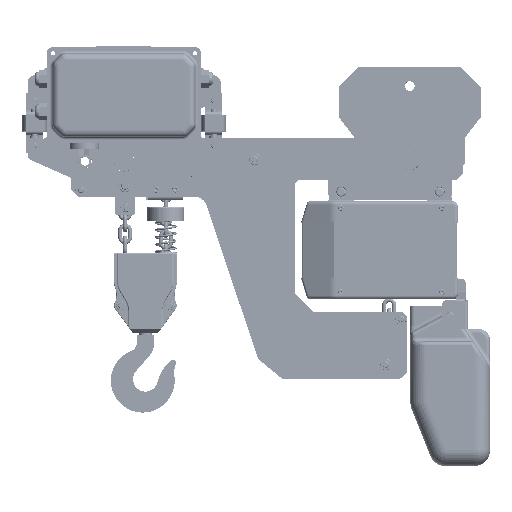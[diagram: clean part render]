
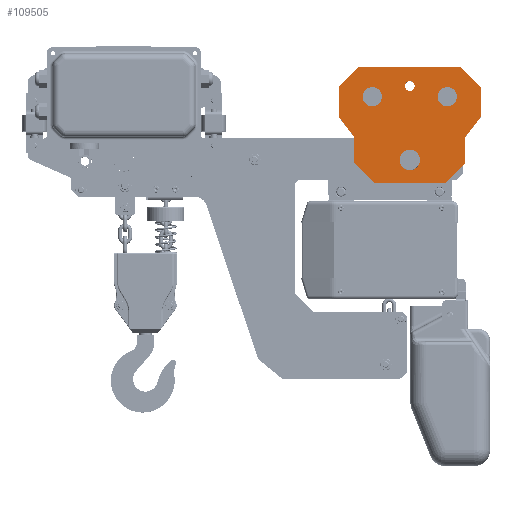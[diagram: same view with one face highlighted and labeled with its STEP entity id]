
A CAD part, top view. The second image highlights one B-rep face of the part: STEP entity #109505.
In plain terms, the highlighted planar face has unit normal (0, 0, 1).
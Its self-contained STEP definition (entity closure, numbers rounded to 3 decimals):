
#2171=LINE('',#172717,#9423);
#2175=LINE('',#172726,#9427);
#2179=LINE('',#172735,#9431);
#2190=LINE('',#172779,#9442);
#2191=LINE('',#172784,#9443);
#2192=LINE('',#172788,#9444);
#2193=LINE('',#172795,#9445);
#2194=LINE('',#172799,#9446);
#2195=LINE('',#172803,#9447);
#2196=LINE('',#172805,#9448);
#2197=LINE('',#172807,#9449);
#2198=LINE('',#172809,#9450);
#9423=VECTOR('',#143892,1000.);
#9427=VECTOR('',#143898,1000.);
#9431=VECTOR('',#143904,1000.);
#9442=VECTOR('',#143943,1000.);
#9443=VECTOR('',#143946,1000.);
#9444=VECTOR('',#143949,1000.);
#9445=VECTOR('',#143958,1000.);
#9446=VECTOR('',#143961,1000.);
#9447=VECTOR('',#143964,1000.);
#9448=VECTOR('',#143965,1000.);
#9449=VECTOR('',#143966,1000.);
#9450=VECTOR('',#143967,1000.);
#22042=PLANE('',#132769);
#25234=ORIENTED_EDGE('',*,*,#58125,.T.);
#25235=ORIENTED_EDGE('',*,*,#58126,.T.);
#25236=ORIENTED_EDGE('',*,*,#58127,.F.);
#25237=ORIENTED_EDGE('',*,*,#58128,.T.);
#25238=ORIENTED_EDGE('',*,*,#58129,.T.);
#25239=ORIENTED_EDGE('',*,*,#58130,.T.);
#25240=ORIENTED_EDGE('',*,*,#58131,.F.);
#25241=ORIENTED_EDGE('',*,*,#58132,.T.);
#25242=ORIENTED_EDGE('',*,*,#58096,.F.);
#25243=ORIENTED_EDGE('',*,*,#58133,.T.);
#25244=ORIENTED_EDGE('',*,*,#58100,.F.);
#25245=ORIENTED_EDGE('',*,*,#58134,.T.);
#25246=ORIENTED_EDGE('',*,*,#58104,.F.);
#25247=ORIENTED_EDGE('',*,*,#58135,.T.);
#25248=ORIENTED_EDGE('',*,*,#58136,.F.);
#25249=ORIENTED_EDGE('',*,*,#58137,.T.);
#25250=ORIENTED_EDGE('',*,*,#58138,.T.);
#25251=ORIENTED_EDGE('',*,*,#58139,.T.);
#25252=ORIENTED_EDGE('',*,*,#58140,.F.);
#25253=ORIENTED_EDGE('',*,*,#58141,.T.);
#25254=ORIENTED_EDGE('',*,*,#58142,.F.);
#25255=ORIENTED_EDGE('',*,*,#58143,.T.);
#25256=ORIENTED_EDGE('',*,*,#58144,.F.);
#25257=ORIENTED_EDGE('',*,*,#58053,.F.);
#58053=EDGE_CURVE('',#74591,#74591,#85309,.T.);
#58096=EDGE_CURVE('',#74634,#74635,#2171,.T.);
#58100=EDGE_CURVE('',#74638,#74639,#2175,.T.);
#58104=EDGE_CURVE('',#74642,#74643,#2179,.T.);
#58125=EDGE_CURVE('',#74660,#74660,#85359,.T.);
#58126=EDGE_CURVE('',#74661,#74661,#85360,.T.);
#58127=EDGE_CURVE('',#74662,#74663,#2190,.F.);
#58128=EDGE_CURVE('',#74662,#74664,#85361,.T.);
#58129=EDGE_CURVE('',#74664,#74665,#2191,.T.);
#58130=EDGE_CURVE('',#74665,#74666,#85362,.F.);
#58131=EDGE_CURVE('',#74667,#74666,#2192,.T.);
#58132=EDGE_CURVE('',#74667,#74635,#85363,.T.);
#58133=EDGE_CURVE('',#74634,#74639,#85364,.T.);
#58134=EDGE_CURVE('',#74638,#74643,#85365,.T.);
#58135=EDGE_CURVE('',#74642,#74668,#85366,.T.);
#58136=EDGE_CURVE('',#74669,#74668,#2193,.T.);
#58137=EDGE_CURVE('',#74669,#74670,#85367,.F.);
#58138=EDGE_CURVE('',#74670,#74671,#2194,.T.);
#58139=EDGE_CURVE('',#74671,#74672,#85368,.T.);
#58140=EDGE_CURVE('',#74673,#74672,#2195,.F.);
#58141=EDGE_CURVE('',#74673,#74674,#2196,.T.);
#58142=EDGE_CURVE('',#74675,#74674,#2197,.T.);
#58143=EDGE_CURVE('',#74675,#74663,#2198,.T.);
#58144=EDGE_CURVE('',#74676,#74676,#85369,.T.);
#74591=VERTEX_POINT('',#172573);
#74634=VERTEX_POINT('',#172716);
#74635=VERTEX_POINT('',#172718);
#74638=VERTEX_POINT('',#172725);
#74639=VERTEX_POINT('',#172727);
#74642=VERTEX_POINT('',#172734);
#74643=VERTEX_POINT('',#172736);
#74660=VERTEX_POINT('',#172776);
#74661=VERTEX_POINT('',#172778);
#74662=VERTEX_POINT('',#172780);
#74663=VERTEX_POINT('',#172781);
#74664=VERTEX_POINT('',#172783);
#74665=VERTEX_POINT('',#172785);
#74666=VERTEX_POINT('',#172787);
#74667=VERTEX_POINT('',#172789);
#74668=VERTEX_POINT('',#172794);
#74669=VERTEX_POINT('',#172796);
#74670=VERTEX_POINT('',#172798);
#74671=VERTEX_POINT('',#172800);
#74672=VERTEX_POINT('',#172802);
#74673=VERTEX_POINT('',#172804);
#74674=VERTEX_POINT('',#172806);
#74675=VERTEX_POINT('',#172808);
#74676=VERTEX_POINT('',#172811);
#85309=CIRCLE('',#132676,15.75);
#85359=CIRCLE('',#132770,14.75);
#85360=CIRCLE('',#132771,14.75);
#85361=CIRCLE('',#132772,1.);
#85362=CIRCLE('',#132773,1.);
#85363=CIRCLE('',#132774,1.);
#85364=CIRCLE('',#132775,1.);
#85365=CIRCLE('',#132776,1.);
#85366=CIRCLE('',#132777,1.);
#85367=CIRCLE('',#132778,1.);
#85368=CIRCLE('',#132779,1.);
#85369=CIRCLE('',#132780,7.5);
#90108=EDGE_LOOP('',(#25234));
#90109=EDGE_LOOP('',(#25235));
#90110=EDGE_LOOP('',(#25236,#25237,#25238,#25239,#25240,#25241,#25242,#25243,
#25244,#25245,#25246,#25247,#25248,#25249,#25250,#25251,#25252,#25253,#25254,
#25255));
#90111=EDGE_LOOP('',(#25256));
#90112=EDGE_LOOP('',(#25257));
#98895=FACE_BOUND('',#90108,.T.);
#98896=FACE_BOUND('',#90109,.T.);
#98897=FACE_BOUND('',#90110,.T.);
#98898=FACE_BOUND('',#90111,.T.);
#98899=FACE_BOUND('',#90112,.T.);
#109505=ADVANCED_FACE('',(#98895,#98896,#98897,#98898,#98899),#22042,.F.);
#132676=AXIS2_PLACEMENT_3D('',#172572,#143730,#143731);
#132769=AXIS2_PLACEMENT_3D('',#172774,#143937,#143938);
#132770=AXIS2_PLACEMENT_3D('',#172775,#143939,#143940);
#132771=AXIS2_PLACEMENT_3D('',#172777,#143941,#143942);
#132772=AXIS2_PLACEMENT_3D('',#172782,#143944,#143945);
#132773=AXIS2_PLACEMENT_3D('',#172786,#143947,#143948);
#132774=AXIS2_PLACEMENT_3D('',#172790,#143950,#143951);
#132775=AXIS2_PLACEMENT_3D('',#172791,#143952,#143953);
#132776=AXIS2_PLACEMENT_3D('',#172792,#143954,#143955);
#132777=AXIS2_PLACEMENT_3D('',#172793,#143956,#143957);
#132778=AXIS2_PLACEMENT_3D('',#172797,#143959,#143960);
#132779=AXIS2_PLACEMENT_3D('',#172801,#143962,#143963);
#132780=AXIS2_PLACEMENT_3D('',#172810,#143968,#143969);
#143730=DIRECTION('',(0.,0.,1.));
#143731=DIRECTION('',(0.,1.,0.));
#143892=DIRECTION('',(-0.707,0.707,0.));
#143898=DIRECTION('',(-1.,0.,0.));
#143904=DIRECTION('',(-0.707,-0.707,0.));
#143937=DIRECTION('',(0.,0.,-1.));
#143938=DIRECTION('',(-1.,0.,0.));
#143939=DIRECTION('',(0.,0.,-1.));
#143940=DIRECTION('',(0.,-1.,0.));
#143941=DIRECTION('',(0.,0.,-1.));
#143942=DIRECTION('',(0.,-1.,0.));
#143943=DIRECTION('',(0.,-1.,0.));
#143944=DIRECTION('',(0.,0.,1.));
#143945=DIRECTION('',(1.,0.,0.));
#143946=DIRECTION('',(0.611,-0.791,0.));
#143947=DIRECTION('',(0.,0.,1.));
#143948=DIRECTION('',(1.,0.,0.));
#143949=DIRECTION('',(0.,1.,0.));
#143950=DIRECTION('',(0.,0.,1.));
#143951=DIRECTION('',(1.,0.,0.));
#143952=DIRECTION('',(0.,0.,1.));
#143953=DIRECTION('',(1.,0.,0.));
#143954=DIRECTION('',(0.,0.,1.));
#143955=DIRECTION('',(1.,0.,0.));
#143956=DIRECTION('',(0.,0.,1.));
#143957=DIRECTION('',(1.,0.,0.));
#143958=DIRECTION('',(0.,-1.,0.));
#143959=DIRECTION('',(0.,0.,1.));
#143960=DIRECTION('',(1.,0.,0.));
#143961=DIRECTION('',(0.611,0.791,0.));
#143962=DIRECTION('',(0.,0.,1.));
#143963=DIRECTION('',(1.,0.,0.));
#143964=DIRECTION('',(0.,1.,0.));
#143965=DIRECTION('',(-0.707,0.707,0.));
#143966=DIRECTION('',(1.,0.,0.));
#143967=DIRECTION('',(-0.707,-0.707,0.));
#143968=DIRECTION('',(0.,0.,1.));
#143969=DIRECTION('',(-1.,0.,0.));
#172572=CARTESIAN_POINT('',(0.5,-527.742,351.678));
#172573=CARTESIAN_POINT('',(0.5,-511.992,351.678));
#172716=CARTESIAN_POINT('',(-54.793,-562.449,351.678));
#172717=CARTESIAN_POINT('',(-60.358,-556.884,351.678));
#172718=CARTESIAN_POINT('',(-84.207,-533.035,351.678));
#172725=CARTESIAN_POINT('',(55.086,-562.742,351.678));
#172726=CARTESIAN_POINT('',(47.216,-562.742,351.678));
#172727=CARTESIAN_POINT('',(-54.086,-562.742,351.678));
#172734=CARTESIAN_POINT('',(85.207,-533.035,351.678));
#172735=CARTESIAN_POINT('',(79.642,-538.6,351.678));
#172736=CARTESIAN_POINT('',(55.793,-562.449,351.678));
#172774=CARTESIAN_POINT('',(109.5,-433.472,351.678));
#172775=CARTESIAN_POINT('',(-57.,-430.742,351.678));
#172776=CARTESIAN_POINT('',(-57.,-445.492,351.678));
#172777=CARTESIAN_POINT('',(58.,-430.742,351.678));
#172778=CARTESIAN_POINT('',(58.,-445.492,351.678));
#172779=CARTESIAN_POINT('',(-108.5,-450.742,351.678));
#172780=CARTESIAN_POINT('',(-108.5,-461.269,351.678));
#172781=CARTESIAN_POINT('',(-108.5,-415.742,351.678));
#172782=CARTESIAN_POINT('',(-107.5,-461.269,351.678));
#172783=CARTESIAN_POINT('',(-108.291,-461.88,351.678));
#172784=CARTESIAN_POINT('',(-28.697,-564.932,351.678));
#172785=CARTESIAN_POINT('',(-84.709,-492.413,351.678));
#172786=CARTESIAN_POINT('',(-85.5,-493.024,351.678));
#172787=CARTESIAN_POINT('',(-84.5,-493.024,351.678));
#172788=CARTESIAN_POINT('',(-84.5,-527.188,351.678));
#172789=CARTESIAN_POINT('',(-84.5,-532.328,351.678));
#172790=CARTESIAN_POINT('',(-83.5,-532.328,351.678));
#172791=CARTESIAN_POINT('',(-54.086,-561.742,351.678));
#172792=CARTESIAN_POINT('',(55.086,-561.742,351.678));
#172793=CARTESIAN_POINT('',(84.5,-532.328,351.678));
#172794=CARTESIAN_POINT('',(85.5,-532.328,351.678));
#172795=CARTESIAN_POINT('',(85.5,-495.472,351.678));
#172796=CARTESIAN_POINT('',(85.5,-493.024,351.678));
#172797=CARTESIAN_POINT('',(86.5,-493.024,351.678));
#172798=CARTESIAN_POINT('',(85.709,-492.413,351.678));
#172799=CARTESIAN_POINT('',(125.374,-441.058,351.678));
#172800=CARTESIAN_POINT('',(109.291,-461.88,351.678));
#172801=CARTESIAN_POINT('',(108.5,-461.269,351.678));
#172802=CARTESIAN_POINT('',(109.5,-461.269,351.678));
#172803=CARTESIAN_POINT('',(109.5,-410.742,351.678));
#172804=CARTESIAN_POINT('',(109.5,-415.742,351.678));
#172805=CARTESIAN_POINT('',(109.5,-415.742,351.678));
#172806=CARTESIAN_POINT('',(79.5,-385.742,351.678));
#172807=CARTESIAN_POINT('',(-31.7,-385.742,351.678));
#172808=CARTESIAN_POINT('',(-78.5,-385.742,351.678));
#172809=CARTESIAN_POINT('',(-78.5,-385.742,351.678));
#172810=CARTESIAN_POINT('',(0.5,-414.242,351.678));
#172811=CARTESIAN_POINT('',(-7.,-414.242,351.678));
